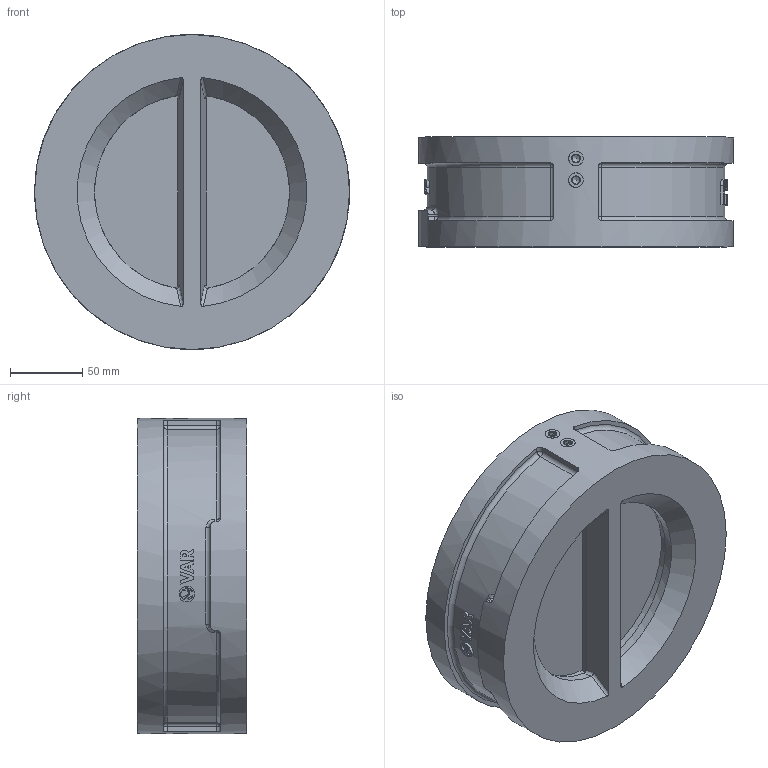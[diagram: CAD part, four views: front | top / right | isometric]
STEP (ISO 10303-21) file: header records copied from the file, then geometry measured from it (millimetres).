
FILE_DESCRIPTION(('STEP AP203'), '1');
FILE_NAME('VAR ZETKA 钺疣蝽 觌囡囗', '', ('UNSPECIFIED'), ('UNSPECIFIED'), 'C3D Converter', 'C3D Toolkit', '');
FILE_SCHEMA(('CONFIG_CONTROL_DESIGN'));
Length unit declared in the file: millimetre
Assembly tree (18 placements, depth 2):
  (unnamed)
    (unnamed)
    (unnamed)  x2
    (unnamed)  x4
    (unnamed)
    (unnamed)  x2
    (unnamed)  x2
    (unnamed)  x2
    (unnamed)  x2
    (unnamed)  x2
Bounding box: 218 x 76 x 218 mm (x, y, z)
Volume: 1432780 mm3; surface area: 261061.3 mm2
Topology: 33 solids, 33 shells, 568 faces, 1384 edges, 898 vertices
Faces by surface type: plane 257, extrusion 138, cylinder 117, bspline 22, cone 18, sphere 8, torus 8
Full cylindrical faces by diameter (mm): 3 x2, 4 x4, 6 x8, 9.18 x16, 10 x4, 10.2 x4, 10.855 x1, 18.18 x6, 162 x1, 170 x2, 218 x1
Entity records: 30532 total; most frequent: CARTESIAN_POINT 17456, ORIENTED_EDGE 2154, DIRECTION 1673, EDGE_CURVE 1077, VERTEX_POINT 723, VECTOR 577, AXIS2_PLACEMENT_3D 548, EDGE_LOOP 540
